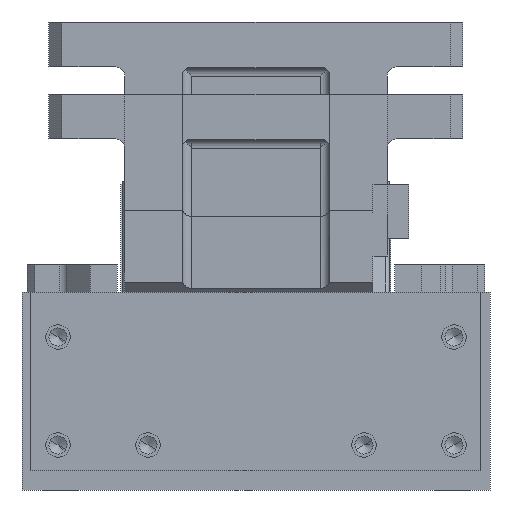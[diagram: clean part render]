
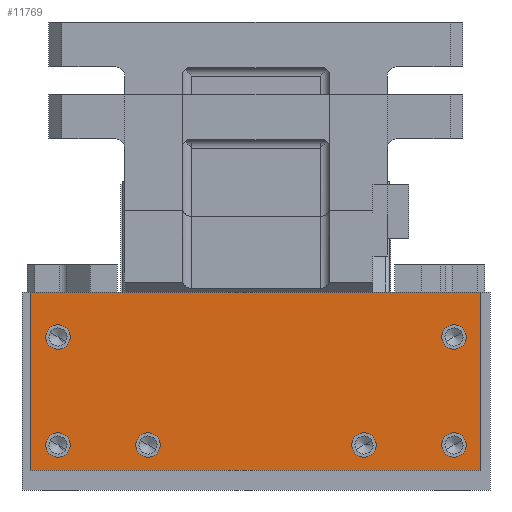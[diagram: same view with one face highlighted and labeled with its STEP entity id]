
A CAD part, left-side view. The second image highlights one B-rep face of the part: STEP entity #11769.
In plain terms, the highlighted planar face has unit normal (-1, 0, 0).
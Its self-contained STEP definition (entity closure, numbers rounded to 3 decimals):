
#9847=CARTESIAN_POINT('Vertex',(-12.,125.,110.)) ;
#9850=CARTESIAN_POINT('Line Origine',(-12.,0.,110.)) ;
#9854=CARTESIAN_POINT('Vertex',(-12.,-125.,110.)) ;
#11618=CARTESIAN_POINT('Vertex',(-12.,65.924,28.236)) ;
#11625=CARTESIAN_POINT('Vertex',(-12.,54.076,21.764)) ;
#11628=CARTESIAN_POINT('Axis2P3D Location',(-12.,60.,25.)) ;
#11640=CARTESIAN_POINT('Axis2P3D Location',(-12.,0.,0.)) ;
#11645=CARTESIAN_POINT('Line Origine',(-12.,125.,60.5)) ;
#11649=CARTESIAN_POINT('Vertex',(-12.,125.,11.)) ;
#11652=CARTESIAN_POINT('Line Origine',(-12.,0.,11.)) ;
#11656=CARTESIAN_POINT('Vertex',(-12.,-125.,11.)) ;
#11659=CARTESIAN_POINT('Line Origine',(-12.,-125.,60.5)) ;
#11670=CARTESIAN_POINT('Axis2P3D Location',(-12.,-110.,25.)) ;
#11674=CARTESIAN_POINT('Vertex',(-12.,-115.924,28.236)) ;
#11676=CARTESIAN_POINT('Vertex',(-12.,-104.076,21.764)) ;
#11679=CARTESIAN_POINT('Axis2P3D Location',(-12.,-110.,25.)) ;
#11688=CARTESIAN_POINT('Axis2P3D Location',(-12.,-110.,85.)) ;
#11692=CARTESIAN_POINT('Vertex',(-12.,-115.924,88.236)) ;
#11694=CARTESIAN_POINT('Vertex',(-12.,-104.076,81.764)) ;
#11697=CARTESIAN_POINT('Axis2P3D Location',(-12.,-110.,85.)) ;
#11706=CARTESIAN_POINT('Axis2P3D Location',(-12.,-60.,25.)) ;
#11710=CARTESIAN_POINT('Vertex',(-12.,-65.924,28.236)) ;
#11712=CARTESIAN_POINT('Vertex',(-12.,-54.076,21.764)) ;
#11715=CARTESIAN_POINT('Axis2P3D Location',(-12.,-60.,25.)) ;
#11724=CARTESIAN_POINT('Axis2P3D Location',(-12.,110.,25.)) ;
#11728=CARTESIAN_POINT('Vertex',(-12.,115.924,28.236)) ;
#11730=CARTESIAN_POINT('Vertex',(-12.,104.076,21.764)) ;
#11733=CARTESIAN_POINT('Axis2P3D Location',(-12.,110.,25.)) ;
#11742=CARTESIAN_POINT('Axis2P3D Location',(-12.,110.,85.)) ;
#11746=CARTESIAN_POINT('Vertex',(-12.,104.076,81.764)) ;
#11748=CARTESIAN_POINT('Vertex',(-12.,115.924,88.236)) ;
#11751=CARTESIAN_POINT('Axis2P3D Location',(-12.,110.,85.)) ;
#11760=CARTESIAN_POINT('Axis2P3D Location',(-12.,60.,25.)) ;
#9852=VECTOR('Line Direction',#9851,1.) ;
#11647=VECTOR('Line Direction',#11646,1.) ;
#11654=VECTOR('Line Direction',#11653,1.) ;
#11661=VECTOR('Line Direction',#11660,1.) ;
#9851=DIRECTION('Vector Direction',(0.,-1.,0.)) ;
#11629=DIRECTION('Axis2P3D Direction',(1.,0.,0.)) ;
#11641=DIRECTION('Axis2P3D Direction',(-1.,-0.,0.)) ;
#11642=DIRECTION('Axis2P3D XDirection',(0.,-1.,0.)) ;
#11646=DIRECTION('Vector Direction',(0.,0.,-1.)) ;
#11653=DIRECTION('Vector Direction',(0.,1.,0.)) ;
#11660=DIRECTION('Vector Direction',(0.,0.,-1.)) ;
#11671=DIRECTION('Axis2P3D Direction',(-1.,-0.,0.)) ;
#11680=DIRECTION('Axis2P3D Direction',(-1.,-0.,0.)) ;
#11689=DIRECTION('Axis2P3D Direction',(-1.,-0.,0.)) ;
#11698=DIRECTION('Axis2P3D Direction',(-1.,-0.,0.)) ;
#11707=DIRECTION('Axis2P3D Direction',(-1.,-0.,0.)) ;
#11716=DIRECTION('Axis2P3D Direction',(-1.,-0.,0.)) ;
#11725=DIRECTION('Axis2P3D Direction',(-1.,-0.,0.)) ;
#11734=DIRECTION('Axis2P3D Direction',(-1.,-0.,0.)) ;
#11743=DIRECTION('Axis2P3D Direction',(-1.,-0.,0.)) ;
#11752=DIRECTION('Axis2P3D Direction',(-1.,-0.,0.)) ;
#11761=DIRECTION('Axis2P3D Direction',(-1.,-0.,0.)) ;
#11630=AXIS2_PLACEMENT_3D('Circle Axis2P3D',#11628,#11629,$) ;
#11643=AXIS2_PLACEMENT_3D('Plane Axis2P3D',#11640,#11641,#11642) ;
#11672=AXIS2_PLACEMENT_3D('Circle Axis2P3D',#11670,#11671,$) ;
#11681=AXIS2_PLACEMENT_3D('Circle Axis2P3D',#11679,#11680,$) ;
#11690=AXIS2_PLACEMENT_3D('Circle Axis2P3D',#11688,#11689,$) ;
#11699=AXIS2_PLACEMENT_3D('Circle Axis2P3D',#11697,#11698,$) ;
#11708=AXIS2_PLACEMENT_3D('Circle Axis2P3D',#11706,#11707,$) ;
#11717=AXIS2_PLACEMENT_3D('Circle Axis2P3D',#11715,#11716,$) ;
#11726=AXIS2_PLACEMENT_3D('Circle Axis2P3D',#11724,#11725,$) ;
#11735=AXIS2_PLACEMENT_3D('Circle Axis2P3D',#11733,#11734,$) ;
#11744=AXIS2_PLACEMENT_3D('Circle Axis2P3D',#11742,#11743,$) ;
#11753=AXIS2_PLACEMENT_3D('Circle Axis2P3D',#11751,#11752,$) ;
#11762=AXIS2_PLACEMENT_3D('Circle Axis2P3D',#11760,#11761,$) ;
#9853=LINE('Line',#9850,#9852) ;
#11648=LINE('Line',#11645,#11647) ;
#11655=LINE('Line',#11652,#11654) ;
#11662=LINE('Line',#11659,#11661) ;
#11631=CIRCLE('generated circle',#11630,6.75) ;
#11673=CIRCLE('generated circle',#11672,6.75) ;
#11682=CIRCLE('generated circle',#11681,6.75) ;
#11691=CIRCLE('generated circle',#11690,6.75) ;
#11700=CIRCLE('generated circle',#11699,6.75) ;
#11709=CIRCLE('generated circle',#11708,6.75) ;
#11718=CIRCLE('generated circle',#11717,6.75) ;
#11727=CIRCLE('generated circle',#11726,6.75) ;
#11736=CIRCLE('generated circle',#11735,6.75) ;
#11745=CIRCLE('generated circle',#11744,6.75) ;
#11754=CIRCLE('generated circle',#11753,6.75) ;
#11763=CIRCLE('generated circle',#11762,6.75) ;
#11644=PLANE('',#11643) ;
#11687=FACE_BOUND('',#11684,.T.) ;
#11705=FACE_BOUND('',#11702,.T.) ;
#11723=FACE_BOUND('',#11720,.T.) ;
#11741=FACE_BOUND('',#11738,.T.) ;
#11759=FACE_BOUND('',#11756,.T.) ;
#11768=FACE_BOUND('',#11765,.T.) ;
#9856=EDGE_CURVE('',#9848,#9855,#9853,.T.) ;
#11632=EDGE_CURVE('',#11626,#11619,#11631,.F.) ;
#11651=EDGE_CURVE('',#9848,#11650,#11648,.T.) ;
#11658=EDGE_CURVE('',#11657,#11650,#11655,.T.) ;
#11663=EDGE_CURVE('',#9855,#11657,#11662,.T.) ;
#11678=EDGE_CURVE('',#11675,#11677,#11673,.F.) ;
#11683=EDGE_CURVE('',#11677,#11675,#11682,.F.) ;
#11696=EDGE_CURVE('',#11693,#11695,#11691,.F.) ;
#11701=EDGE_CURVE('',#11695,#11693,#11700,.F.) ;
#11714=EDGE_CURVE('',#11711,#11713,#11709,.F.) ;
#11719=EDGE_CURVE('',#11713,#11711,#11718,.F.) ;
#11732=EDGE_CURVE('',#11729,#11731,#11727,.T.) ;
#11737=EDGE_CURVE('',#11731,#11729,#11736,.T.) ;
#11750=EDGE_CURVE('',#11747,#11749,#11745,.T.) ;
#11755=EDGE_CURVE('',#11749,#11747,#11754,.T.) ;
#11764=EDGE_CURVE('',#11619,#11626,#11763,.T.) ;
#11664=EDGE_LOOP('',(#11665,#11666,#11667,#11668)) ;
#11684=EDGE_LOOP('',(#11685,#11686)) ;
#11702=EDGE_LOOP('',(#11703,#11704)) ;
#11720=EDGE_LOOP('',(#11721,#11722)) ;
#11738=EDGE_LOOP('',(#11739,#11740)) ;
#11756=EDGE_LOOP('',(#11757,#11758)) ;
#11765=EDGE_LOOP('',(#11766,#11767)) ;
#11665=ORIENTED_EDGE('',*,*,#11651,.T.) ;
#11666=ORIENTED_EDGE('',*,*,#11658,.F.) ;
#11667=ORIENTED_EDGE('',*,*,#11663,.F.) ;
#11668=ORIENTED_EDGE('',*,*,#9856,.F.) ;
#11685=ORIENTED_EDGE('',*,*,#11678,.T.) ;
#11686=ORIENTED_EDGE('',*,*,#11683,.T.) ;
#11703=ORIENTED_EDGE('',*,*,#11696,.T.) ;
#11704=ORIENTED_EDGE('',*,*,#11701,.T.) ;
#11721=ORIENTED_EDGE('',*,*,#11714,.T.) ;
#11722=ORIENTED_EDGE('',*,*,#11719,.T.) ;
#11739=ORIENTED_EDGE('',*,*,#11732,.F.) ;
#11740=ORIENTED_EDGE('',*,*,#11737,.F.) ;
#11757=ORIENTED_EDGE('',*,*,#11750,.F.) ;
#11758=ORIENTED_EDGE('',*,*,#11755,.F.) ;
#11766=ORIENTED_EDGE('',*,*,#11764,.F.) ;
#11767=ORIENTED_EDGE('',*,*,#11632,.F.) ;
#9848=VERTEX_POINT('',#9847) ;
#9855=VERTEX_POINT('',#9854) ;
#11619=VERTEX_POINT('',#11618) ;
#11626=VERTEX_POINT('',#11625) ;
#11650=VERTEX_POINT('',#11649) ;
#11657=VERTEX_POINT('',#11656) ;
#11675=VERTEX_POINT('',#11674) ;
#11677=VERTEX_POINT('',#11676) ;
#11693=VERTEX_POINT('',#11692) ;
#11695=VERTEX_POINT('',#11694) ;
#11711=VERTEX_POINT('',#11710) ;
#11713=VERTEX_POINT('',#11712) ;
#11729=VERTEX_POINT('',#11728) ;
#11731=VERTEX_POINT('',#11730) ;
#11747=VERTEX_POINT('',#11746) ;
#11749=VERTEX_POINT('',#11748) ;
#11769=ADVANCED_FACE('base',(#11669,#11687,#11705,#11723,#11741,#11759,#11768),#11644,.T.) ;
#11669=FACE_OUTER_BOUND('',#11664,.T.) ;
